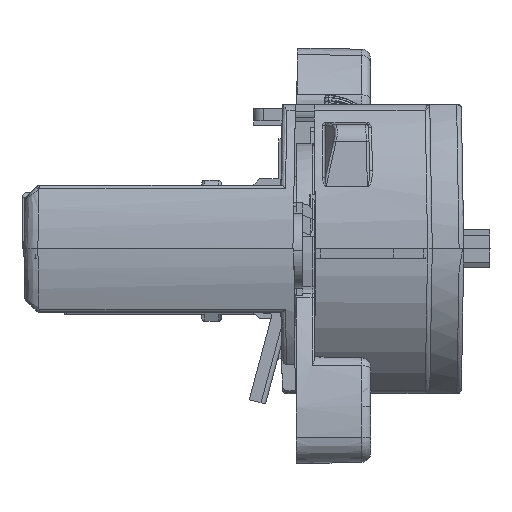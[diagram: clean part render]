
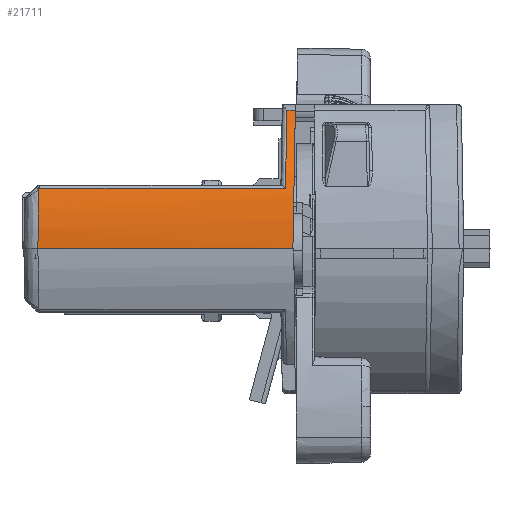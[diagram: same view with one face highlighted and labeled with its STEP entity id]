
A CAD part, left-side view. The second image highlights one B-rep face of the part: STEP entity #21711.
In plain terms, the highlighted cylindrical face has radius 19.016 mm (diameter 38.031 mm), a partial arc.
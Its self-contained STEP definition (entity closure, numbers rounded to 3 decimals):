
#1504 = FACE_OUTER_BOUND ( 'NONE', #166068, .T. ) ;
#3937 = AXIS2_PLACEMENT_3D ( 'NONE', #184644, #169689, #124909 ) ;
#7841 = CARTESIAN_POINT ( 'NONE',  ( -33.881, -4., 6.47 ) ) ;
#8782 = CARTESIAN_POINT ( 'NONE',  ( -33.881, 9.39, 6.47 ) ) ;
#10308 = CARTESIAN_POINT ( 'NONE',  ( -34.946, 8.568, 1.827 ) ) ;
#11741 = CARTESIAN_POINT ( 'NONE',  ( -30.23, 9.284, 12.732 ) ) ;
#13265 = CARTESIAN_POINT ( 'NONE',  ( -33.187, 8.458, 8.137 ) ) ;
#18133 = B_SPLINE_CURVE_WITH_KNOTS ( 'NONE', 3,
 ( #130206, #40636, #11741, #23731, #193891, #8782 ),
 .UNSPECIFIED., .F., .F.,
 ( 4, 2, 4 ),
 ( 0., 0.5, 1. ),
 .UNSPECIFIED. ) ;
#18213 = ORIENTED_EDGE ( 'NONE', *, *, #192811, .T. ) ;
#21711 = ADVANCED_FACE ( 'NONE', ( #1504 ), #64218, .T. ) ;
#23250 = ORIENTED_EDGE ( 'NONE', *, *, #66204, .F. ) ;
#23731 = CARTESIAN_POINT ( 'NONE',  ( -32.302, 9.331, 9.942 ) ) ;
#25229 = CARTESIAN_POINT ( 'NONE',  ( -33.232, 8.459, 8.041 ) ) ;
#25818 = ORIENTED_EDGE ( 'NONE', *, *, #177531, .T. ) ;
#26226 = CARTESIAN_POINT ( 'NONE',  ( -32.469, 8.432, 9.632 ) ) ;
#28193 = CARTESIAN_POINT ( 'NONE',  ( -33.271, 8.461, 7.956 ) ) ;
#28487 = VECTOR ( 'NONE', #176054, 1000. ) ;
#29187 = CARTESIAN_POINT ( 'NONE',  ( -35.016, 8.6, 0. ) ) ;
#33458 = VERTEX_POINT ( 'NONE', #111629 ) ;
#36698 = CARTESIAN_POINT ( 'NONE',  ( -35.016, 35.9, 0. ) ) ;
#38731 = LINE ( 'NONE', #160132, #28487 ) ;
#38938 = VERTEX_POINT ( 'NONE', #156300 ) ;
#39794 = B_SPLINE_CURVE_WITH_KNOTS ( 'NONE', 3,
 ( #98344, #160062, #162043, #36698 ),
 .UNSPECIFIED., .F., .F.,
 ( 4, 4 ),
 ( 0., 1. ),
 .UNSPECIFIED. ) ;
#40636 = CARTESIAN_POINT ( 'NONE',  ( -29.071, 9.264, 13.894 ) ) ;
#41657 = DIRECTION ( 'NONE',  ( 0., -1., 0. ) ) ;
#42157 = CARTESIAN_POINT ( 'NONE',  ( -33.143, 8.456, 8.229 ) ) ;
#42280 = VECTOR ( 'NONE', #41657, 1000. ) ;
#46363 = CARTESIAN_POINT ( 'NONE',  ( -35.016, 35.9, 0. ) ) ;
#46428 = CARTESIAN_POINT ( 'NONE',  ( -33.907, 35.763, 6.399 ) ) ;
#49832 = EDGE_CURVE ( 'NONE', #33458, #182446, #39794, .T. ) ;
#52176 = EDGE_CURVE ( 'NONE', #182446, #38938, #38731, .T. ) ;
#54367 = VERTEX_POINT ( 'NONE', #132356 ) ;
#56067 = CARTESIAN_POINT ( 'NONE',  ( -34.716, 8.54, 3.463 ) ) ;
#58053 = CARTESIAN_POINT ( 'NONE',  ( -33.35, 8.464, 7.784 ) ) ;
#61390 = CARTESIAN_POINT ( 'NONE',  ( -33.881, 35.693, 6.47 ) ) ;
#64218 = CYLINDRICAL_SURFACE ( 'NONE', #3937, 19.016 ) ;
#66204 = EDGE_CURVE ( 'NONE', #107813, #147482, #194162, .T. ) ;
#73969 = CARTESIAN_POINT ( 'NONE',  ( -33.145, 8.456, 8.225 ) ) ;
#74036 = EDGE_CURVE ( 'NONE', #54367, #142849, #176027, .T. ) ;
#74945 = CARTESIAN_POINT ( 'NONE',  ( -33.147, 8.456, 8.22 ) ) ;
#77883 = EDGE_CURVE ( 'NONE', #54367, #33458, #81226, .T. ) ;
#81226 = B_SPLINE_CURVE_WITH_KNOTS ( 'NONE', 3,
 ( #61390, #105194, #46428, #107149 ),
 .UNSPECIFIED., .F., .F.,
 ( 4, 4 ),
 ( 0., 1. ),
 .UNSPECIFIED. ) ;
#82598 = B_SPLINE_CURVE_WITH_KNOTS ( 'NONE', 3,
 ( #29187, #89849, #10308, #56067, #101844, #132686, #192441, #87877, #150552, #115810, #58053, #28193, #25229, #13265, #146639, #162583, #74945, #73969, #42157, #147613, #26226, #193447, #161604, #191477, #176524 ),
 .UNSPECIFIED., .F., .F.,
 ( 4, 2, 2, 2, 2, 2, 1, 1, 1, 1, 1, 2, 2, 2, 4 ),
 ( 0., 0.125, 0.25, 0.375, 0.437, 0.469, 0.484, 0.492, 0.496, 0.498, 0.499, 0.5, 0.5, 0.75, 1. ),
 .UNSPECIFIED. ) ;
#83100 = ORIENTED_EDGE ( 'NONE', *, *, #52176, .T. ) ;
#87877 = CARTESIAN_POINT ( 'NONE',  ( -33.668, 8.477, 7.036 ) ) ;
#89849 = CARTESIAN_POINT ( 'NONE',  ( -35.016, 8.583, 0.943 ) ) ;
#98344 = CARTESIAN_POINT ( 'NONE',  ( -33.92, 35.797, 6.363 ) ) ;
#101844 = CARTESIAN_POINT ( 'NONE',  ( -34.556, 8.526, 4.215 ) ) ;
#104508 = ORIENTED_EDGE ( 'NONE', *, *, #74036, .F. ) ;
#105194 = CARTESIAN_POINT ( 'NONE',  ( -33.894, 35.728, 6.434 ) ) ;
#107149 = CARTESIAN_POINT ( 'NONE',  ( -33.92, 35.797, 6.363 ) ) ;
#107813 = VERTEX_POINT ( 'NONE', #172122 ) ;
#111629 = CARTESIAN_POINT ( 'NONE',  ( -33.92, 35.797, 6.363 ) ) ;
#115810 = CARTESIAN_POINT ( 'NONE',  ( -33.403, 8.466, 7.665 ) ) ;
#120457 = DIRECTION ( 'NONE',  ( 0., -1., 0. ) ) ;
#124909 = DIRECTION ( 'NONE',  ( 0., 0., 1. ) ) ;
#126695 = ORIENTED_EDGE ( 'NONE', *, *, #77883, .T. ) ;
#126973 = VECTOR ( 'NONE', #120457, 1000. ) ;
#130206 = CARTESIAN_POINT ( 'NONE',  ( -27.888, 9.248, 14.841 ) ) ;
#132356 = CARTESIAN_POINT ( 'NONE',  ( -33.881, 35.693, 6.47 ) ) ;
#132686 = CARTESIAN_POINT ( 'NONE',  ( -34.19, 8.503, 5.586 ) ) ;
#142849 = VERTEX_POINT ( 'NONE', #147948 ) ;
#145366 = CARTESIAN_POINT ( 'NONE',  ( -27.888, 8.341, 14.841 ) ) ;
#146639 = CARTESIAN_POINT ( 'NONE',  ( -33.164, 8.457, 8.185 ) ) ;
#147482 = VERTEX_POINT ( 'NONE', #145366 ) ;
#147613 = CARTESIAN_POINT ( 'NONE',  ( -33.143, 8.456, 8.229 ) ) ;
#147948 = CARTESIAN_POINT ( 'NONE',  ( -33.881, 9.39, 6.47 ) ) ;
#150552 = CARTESIAN_POINT ( 'NONE',  ( -33.562, 8.472, 7.297 ) ) ;
#156300 = CARTESIAN_POINT ( 'NONE',  ( -35.016, 8.6, 0. ) ) ;
#160062 = CARTESIAN_POINT ( 'NONE',  ( -34.643, 35.832, 4.325 ) ) ;
#160132 = CARTESIAN_POINT ( 'NONE',  ( -35.016, -4., 0. ) ) ;
#160831 = ORIENTED_EDGE ( 'NONE', *, *, #49832, .T. ) ;
#161604 = CARTESIAN_POINT ( 'NONE',  ( -29.866, 8.371, 13.09 ) ) ;
#162043 = CARTESIAN_POINT ( 'NONE',  ( -35.016, 35.866, 2.163 ) ) ;
#162583 = CARTESIAN_POINT ( 'NONE',  ( -33.153, 8.457, 8.209 ) ) ;
#166068 = EDGE_LOOP ( 'NONE', ( #18213, #23250, #25818, #104508, #126695, #160831, #83100 ) ) ;
#169689 = DIRECTION ( 'NONE',  ( 0., 1., 0. ) ) ;
#172122 = CARTESIAN_POINT ( 'NONE',  ( -27.888, 9.248, 14.841 ) ) ;
#176027 = LINE ( 'NONE', #7841, #42280 ) ;
#176054 = DIRECTION ( 'NONE',  ( 0., -1., 0. ) ) ;
#176524 = CARTESIAN_POINT ( 'NONE',  ( -27.888, 8.341, 14.841 ) ) ;
#177531 = EDGE_CURVE ( 'NONE', #107813, #142849, #18133, .T. ) ;
#182446 = VERTEX_POINT ( 'NONE', #46363 ) ;
#184644 = CARTESIAN_POINT ( 'NONE',  ( -16., -4., 0. ) ) ;
#191477 = CARTESIAN_POINT ( 'NONE',  ( -28.891, 8.355, 14.038 ) ) ;
#192441 = CARTESIAN_POINT ( 'NONE',  ( -33.985, 8.492, 6.205 ) ) ;
#192811 = EDGE_CURVE ( 'NONE', #38938, #147482, #82598, .T. ) ;
#193447 = CARTESIAN_POINT ( 'NONE',  ( -31.655, 8.41, 10.887 ) ) ;
#193891 = CARTESIAN_POINT ( 'NONE',  ( -33.214, 9.359, 8.312 ) ) ;
#194162 = LINE ( 'NONE', #196115, #126973 ) ;
#196115 = CARTESIAN_POINT ( 'NONE',  ( -27.888, -4., 14.841 ) ) ;
